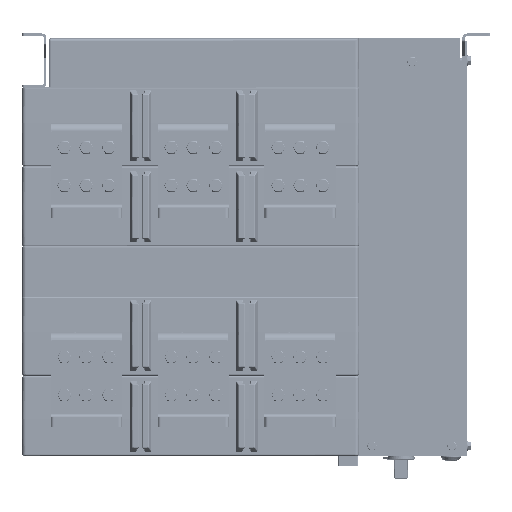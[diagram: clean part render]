
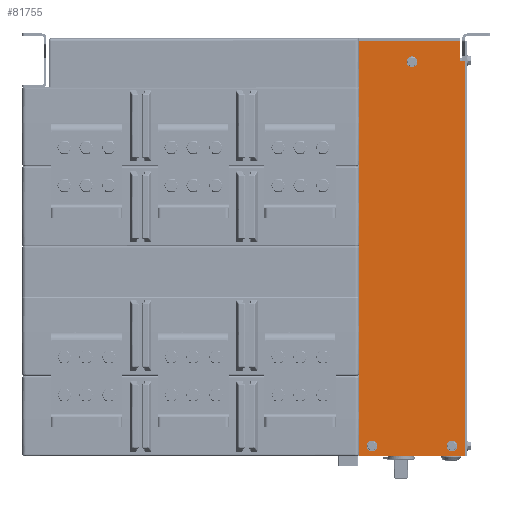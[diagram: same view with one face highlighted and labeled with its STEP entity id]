
A CAD part, left-side view. The second image highlights one B-rep face of the part: STEP entity #81755.
In plain terms, the highlighted planar face has unit normal (-1, 0, 0) as drawn and (0, 1, 0) by its records, which use the part's own axes.
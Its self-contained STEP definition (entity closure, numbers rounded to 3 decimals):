
#81432=DIRECTION('',(0.,0.,-1.));
#81433=VECTOR('',#81432,22.);
#81434=CARTESIAN_POINT('',(53.5,2.,-298.659));
#81435=LINE('',#81434,#81433);
#81480=DIRECTION('',(1.,0.,0.));
#81481=VECTOR('',#81480,6.);
#81482=CARTESIAN_POINT('',(53.5,2.,-298.659));
#81483=LINE('',#81482,#81481);
#81484=DIRECTION('',(0.,0.,1.));
#81485=VECTOR('',#81484,443.159);
#81486=CARTESIAN_POINT('',(59.5,2.,-298.659));
#81487=LINE('',#81486,#81485);
#81488=DIRECTION('',(-1.,0.,0.));
#81489=VECTOR('',#81488,119.);
#81490=CARTESIAN_POINT('',(59.5,2.,144.5));
#81491=LINE('',#81490,#81489);
#81492=DIRECTION('',(0.,0.,-1.));
#81493=VECTOR('',#81492,465.159);
#81494=CARTESIAN_POINT('',(-59.5,2.,144.5));
#81495=LINE('',#81494,#81493);
#81496=DIRECTION('',(1.,0.,0.));
#81497=VECTOR('',#81496,113.);
#81498=CARTESIAN_POINT('',(-59.5,2.,-320.659));
#81499=LINE('',#81498,#81497);
#81500=CARTESIAN_POINT('',(-45.,2.,133.5));
#81501=DIRECTION('',(0.,1.,0.));
#81502=DIRECTION('',(1.,0.,0.));
#81503=AXIS2_PLACEMENT_3D('',#81500,#81501,#81502);
#81505=CARTESIAN_POINT('',(-45.,2.,133.5));
#81506=DIRECTION('',(0.,1.,0.));
#81507=DIRECTION('',(-1.,0.,0.));
#81508=AXIS2_PLACEMENT_3D('',#81505,#81506,#81507);
#81510=CARTESIAN_POINT('',(45.,2.,133.5));
#81511=DIRECTION('',(0.,1.,0.));
#81512=DIRECTION('',(1.,0.,0.));
#81513=AXIS2_PLACEMENT_3D('',#81510,#81511,#81512);
#81515=CARTESIAN_POINT('',(45.,2.,133.5));
#81516=DIRECTION('',(0.,1.,0.));
#81517=DIRECTION('',(-1.,0.,0.));
#81518=AXIS2_PLACEMENT_3D('',#81515,#81516,#81517);
#81520=CARTESIAN_POINT('',(0.,2.,-297.659));
#81521=DIRECTION('',(0.,1.,0.));
#81522=DIRECTION('',(-1.,0.,0.));
#81523=AXIS2_PLACEMENT_3D('',#81520,#81521,#81522);
#81525=CARTESIAN_POINT('',(0.,2.,-297.659));
#81526=DIRECTION('',(0.,1.,0.));
#81527=DIRECTION('',(1.,0.,0.));
#81528=AXIS2_PLACEMENT_3D('',#81525,#81526,#81527);
#81578=CARTESIAN_POINT('',(53.5,2.,-298.659));
#81579=VERTEX_POINT('',#81578);
#81580=CARTESIAN_POINT('',(53.5,2.,-320.659));
#81581=VERTEX_POINT('',#81580);
#81582=CARTESIAN_POINT('',(59.5,2.,-298.659));
#81583=VERTEX_POINT('',#81582);
#81584=CARTESIAN_POINT('',(59.5,2.,144.5));
#81585=VERTEX_POINT('',#81584);
#81586=CARTESIAN_POINT('',(-59.5,2.,144.5));
#81587=VERTEX_POINT('',#81586);
#81588=CARTESIAN_POINT('',(-59.5,2.,-320.659));
#81589=VERTEX_POINT('',#81588);
#81590=CARTESIAN_POINT('',(-41.5,2.,133.5));
#81591=CARTESIAN_POINT('',(-48.5,2.,133.5));
#81592=VERTEX_POINT('',#81590);
#81593=VERTEX_POINT('',#81591);
#81594=CARTESIAN_POINT('',(48.5,2.,133.5));
#81595=CARTESIAN_POINT('',(41.5,2.,133.5));
#81596=VERTEX_POINT('',#81594);
#81597=VERTEX_POINT('',#81595);
#81598=CARTESIAN_POINT('',(-3.5,2.,-297.659));
#81599=CARTESIAN_POINT('',(3.5,2.,-297.659));
#81600=VERTEX_POINT('',#81598);
#81601=VERTEX_POINT('',#81599);
#81724=CARTESIAN_POINT('',(0.,2.,0.));
#81725=DIRECTION('',(0.,1.,0.));
#81726=DIRECTION('',(1.,0.,0.));
#81727=AXIS2_PLACEMENT_3D('',#81724,#81725,#81726);
#81728=PLANE('',#81727);
#81729=ORIENTED_EDGE('',*,*,#81648,.F.);
#81730=ORIENTED_EDGE('',*,*,#81663,.T.);
#81731=ORIENTED_EDGE('',*,*,#81678,.T.);
#81732=ORIENTED_EDGE('',*,*,#81691,.T.);
#81733=ORIENTED_EDGE('',*,*,#81705,.T.);
#81734=ORIENTED_EDGE('',*,*,#81717,.T.);
#81735=EDGE_LOOP('',(#81729,#81730,#81731,#81732,#81733,#81734));
#81736=FACE_OUTER_BOUND('',#81735,.F.);
#81738=ORIENTED_EDGE('',*,*,#81737,.T.);
#81740=ORIENTED_EDGE('',*,*,#81739,.T.);
#81741=EDGE_LOOP('',(#81738,#81740));
#81742=FACE_BOUND('',#81741,.F.);
#81744=ORIENTED_EDGE('',*,*,#81743,.T.);
#81746=ORIENTED_EDGE('',*,*,#81745,.T.);
#81747=EDGE_LOOP('',(#81744,#81746));
#81748=FACE_BOUND('',#81747,.F.);
#81750=ORIENTED_EDGE('',*,*,#81749,.T.);
#81752=ORIENTED_EDGE('',*,*,#81751,.T.);
#81753=EDGE_LOOP('',(#81750,#81752));
#81754=FACE_BOUND('',#81753,.F.);
#81504=CIRCLE('',#81503,3.5);
#81509=CIRCLE('',#81508,3.5);
#81514=CIRCLE('',#81513,3.5);
#81519=CIRCLE('',#81518,3.5);
#81524=CIRCLE('',#81523,3.5);
#81529=CIRCLE('',#81528,3.5);
#81648=EDGE_CURVE('',#81579,#81581,#81435,.T.);
#81663=EDGE_CURVE('',#81579,#81583,#81483,.T.);
#81678=EDGE_CURVE('',#81583,#81585,#81487,.T.);
#81691=EDGE_CURVE('',#81585,#81587,#81491,.T.);
#81705=EDGE_CURVE('',#81587,#81589,#81495,.T.);
#81717=EDGE_CURVE('',#81589,#81581,#81499,.T.);
#81737=EDGE_CURVE('',#81592,#81593,#81504,.T.);
#81739=EDGE_CURVE('',#81593,#81592,#81509,.T.);
#81743=EDGE_CURVE('',#81596,#81597,#81514,.T.);
#81745=EDGE_CURVE('',#81597,#81596,#81519,.T.);
#81749=EDGE_CURVE('',#81600,#81601,#81524,.T.);
#81751=EDGE_CURVE('',#81601,#81600,#81529,.T.);
#81755=ADVANCED_FACE('',(#81736,#81742,#81748,#81754),#81728,.T.);
